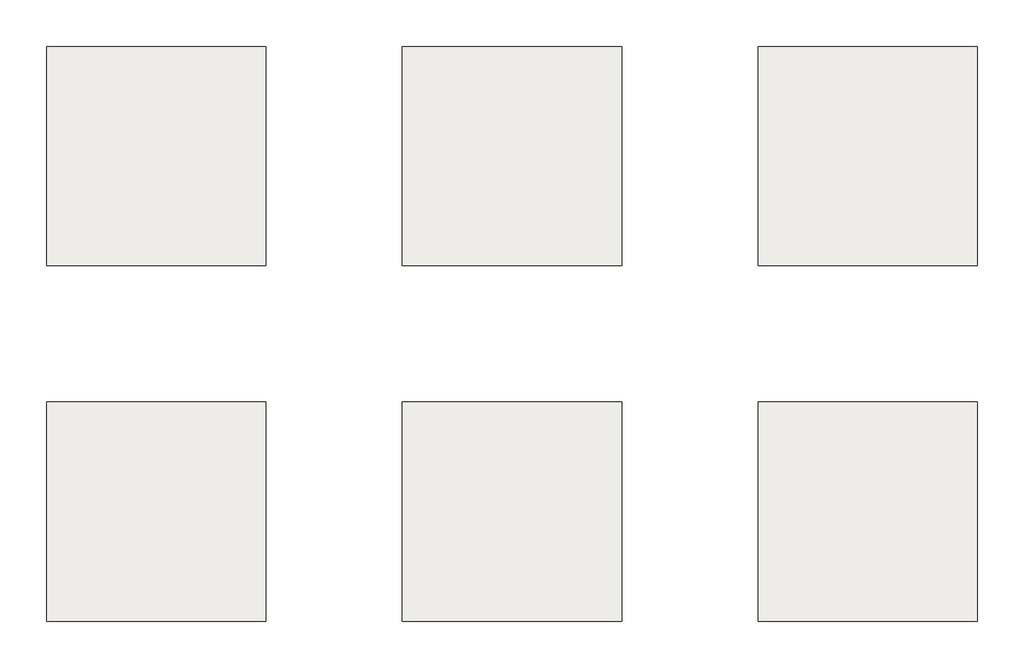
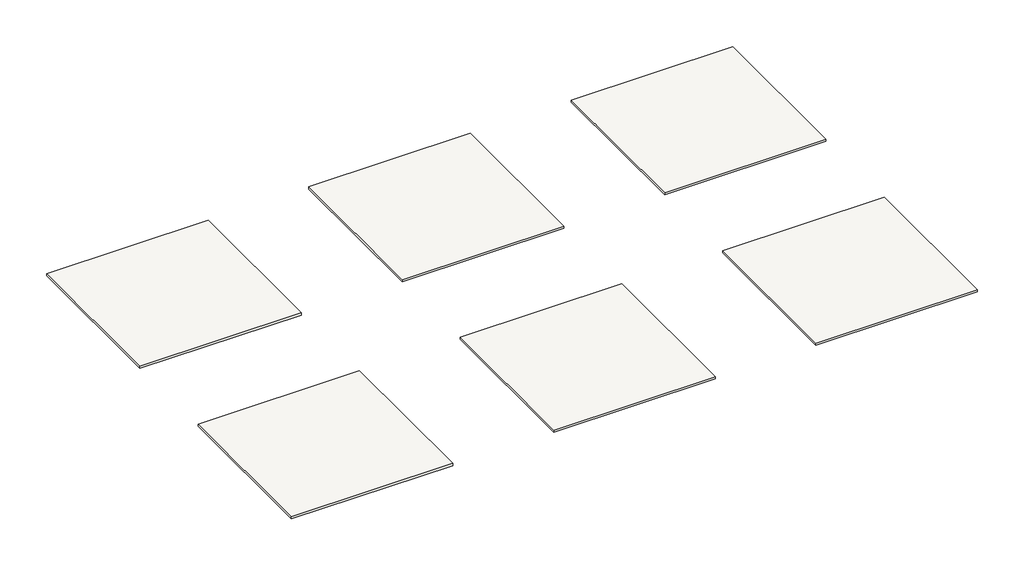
# One storey: 6 slabs.
"""IFC4 building model written with IfcOpenShell, lengths in millimetres."""

import ifcopenshell
import ifcopenshell.guid

model = None  # the IFC model being written
_history = None  # IfcOwnerHistory: only IFC2X3 demands one
_inside = {}  # id of a spatial element -> (the spatial element, [elements in it])
_under = {}  # id of a project, library or spatial element -> (it, [spatial elements below it])
_declared = {}  # id of a project -> (the project, [libraries it declares])
_typed = {}  # id of a type object -> (the type object, [elements of that type])
_made_of = {}  # id of a material, layer set ... -> (it, [elements and type objects made of it])


def new_model(schema):
    """Start an empty IFC model of exactly this schema.

    Asked for "IFC4X3", IfcOpenShell would pick the latest addendum, in which some entities
    have other attributes; the version numbers below select the first issue.
    IFC2X3 requires an IfcOwnerHistory on every rooted entity: one is made here for all.
    """
    global model, _history
    if schema == "IFC4X3":
        model = ifcopenshell.file(schema_version=(4, 3, 0, 0))
    else:
        model = ifcopenshell.file(schema=schema)
    _inside.clear()
    _under.clear()
    _declared.clear()
    _typed.clear()
    _made_of.clear()
    _history = None
    if model.schema == "IFC2X3":
        org = make("IfcOrganization", Name="unknown")
        user = make(
            "IfcPersonAndOrganization",
            ThePerson=make("IfcPerson", FamilyName="unknown"),
            TheOrganization=org,
        )
        app = make(
            "IfcApplication",
            ApplicationDeveloper=org,
            Version="unknown",
            ApplicationFullName="unknown",
            ApplicationIdentifier="unknown",
        )
        _history = make(
            "IfcOwnerHistory",
            OwningUser=user,
            OwningApplication=app,
            ChangeAction="ADDED",
            CreationDate=0,
        )
    return model


def make(cls, **values):
    """One entity of the class cls with the attributes given. An attribute that is None is left unset."""
    return model.create_entity(
        cls, **{name: value for name, value in values.items() if value is not None}
    )


def rooted(cls, **values):
    """An entity with a GlobalId (a new one), such as an element, a storey or a relation."""
    return make(cls, GlobalId=ifcopenshell.guid.new(), OwnerHistory=_history, **values)


def si_unit(unit_type, name, prefix=None):
    """IfcSIUnit, for example si_unit("LENGTHUNIT", "METRE", prefix="MILLI")."""
    return make("IfcSIUnit", UnitType=unit_type, Prefix=prefix, Name=name)


def assignment(units):
    """IfcUnitAssignment: the units of a project."""
    return None if units is None else make("IfcUnitAssignment", Units=units)


def point(xyz):
    """IfcCartesianPoint."""
    return None if xyz is None else make("IfcCartesianPoint", Coordinates=xyz)


def direction(xyz):
    """IfcDirection."""
    return None if xyz is None else make("IfcDirection", DirectionRatios=xyz)


def frame(location, z_axis=None, x_axis=None):
    """IfcAxis2Placement3D, a coordinate frame: its origin and axes. An axis left out is left unset."""
    return make(
        "IfcAxis2Placement3D",
        Location=point(location),
        Axis=direction(z_axis),
        RefDirection=direction(x_axis),
    )


def origin():
    """The frame at (0, 0, 0) with its axes left unset."""
    return frame((0.0, 0.0, 0.0))


def place(relative_to, where):
    """IfcLocalPlacement: puts the frame where relative to a parent placement (None: the world)."""
    return make(
        "IfcLocalPlacement", PlacementRelTo=relative_to, RelativePlacement=where
    )


def context(
    kind, dimensions, precision=None, world=None, true_north=None, identifier=None
):
    """IfcGeometricRepresentationContext, for example the 3D "Model" context."""
    return make(
        "IfcGeometricRepresentationContext",
        ContextIdentifier=identifier,
        ContextType=kind,
        CoordinateSpaceDimension=dimensions,
        Precision=precision,
        WorldCoordinateSystem=world,
        TrueNorth=true_north,
    )


def project(units=None, contexts=None):
    """IfcProject with its units and contexts."""
    return rooted(
        "IfcProject",
        Name="project",
        RepresentationContexts=contexts,
        UnitsInContext=assignment(units),
    )


def spatial(cls, under=None, at=None, **own):
    """A site, building, storey or space (cls), placed at a placement, below another one or the project."""
    s = rooted(cls, ObjectPlacement=at, **own)
    if under is not None:
        _under.setdefault(under.id(), (under, []))[1].append(s)
    return s


def polyline(points):
    """IfcPolyline through the points."""
    return make("IfcPolyline", Points=[point(p) for p in points])


def outline(outer, holes=None, kind="AREA"):
    """IfcArbitraryClosedProfileDef: a profile drawn as a closed curve; with holes, ...WithVoids."""
    if holes is None:
        return make("IfcArbitraryClosedProfileDef", ProfileType=kind, OuterCurve=outer)
    return make(
        "IfcArbitraryProfileDefWithVoids",
        ProfileType=kind,
        OuterCurve=outer,
        InnerCurves=holes,
    )


def extrude(swept, where, along, depth):
    """IfcExtrudedAreaSolid: the profile swept, set in the frame where, extruded along a direction by depth."""
    return make(
        "IfcExtrudedAreaSolid",
        SweptArea=swept,
        Position=where,
        ExtrudedDirection=direction(along),
        Depth=depth,
    )


def shape(context_of_items, identifier, shape_type, items):
    """IfcShapeRepresentation: the items that make up one representation, for example the "Body"."""
    return make(
        "IfcShapeRepresentation",
        ContextOfItems=context_of_items,
        RepresentationIdentifier=identifier,
        RepresentationType=shape_type,
        Items=items,
    )


def made_of(thing, what):
    """Note that an element or type object is made of a material, layer set ...; save() writes the relation."""
    if what is not None:
        _made_of.setdefault(what.id(), (what, []))[1].append(thing)
    return thing


def element(
    cls,
    number,
    at=None,
    inside=None,
    cuts=None,
    type_object=None,
    material=None,
    context=None,
    identifier="Body",
    shape_type=None,
    held_by="IfcProductDefinitionShape",
    body=None,
    shapes=None,
    **own,
):
    """One element of the class cls, such as IfcWall. Its Tag is "e" and its number.

    at: its placement. inside: the storey or other place that contains it. cuts: it is an
    opening in that element (IfcRelVoidsElement). A single representation is given by context,
    identifier, shape_type and body (its items); several are given by shapes. held_by: the class
    of the entity that holds the representations. save() writes the other relations.
    """
    e = rooted(cls, Tag="e%d" % number, ObjectPlacement=at, **own)
    if body is not None:
        shapes = [shape(context, identifier, shape_type, body)]
    if shapes is not None:
        e.Representation = make(held_by, Representations=shapes)
    if inside is not None:
        _inside.setdefault(inside.id(), (inside, []))[1].append(e)
    if cuts is not None:
        rooted(
            "IfcRelVoidsElement", RelatingBuildingElement=cuts, RelatedOpeningElement=e
        )
    if type_object is not None:
        _typed.setdefault(type_object.id(), (type_object, []))[1].append(e)
    return made_of(e, material)


def aggregate(whole, parts):
    """IfcRelAggregates: a whole, such as a stair, and the parts it consists of."""
    return rooted("IfcRelAggregates", RelatingObject=whole, RelatedObjects=parts)


def save(model, path):
    """Write the relations noted so far, then the file.

    IfcRelAggregates (storeys below a building ...), IfcRelContainedInSpatialStructure (elements
    in a storey), IfcRelDefinesByType, IfcRelAssociatesMaterial and IfcRelDeclares: one each for
    every whole, place, type object, material and project.
    """
    for whole, parts in _under.values():
        aggregate(whole, parts)
    for where, things in _inside.values():
        rooted(
            "IfcRelContainedInSpatialStructure",
            RelatedElements=things,
            RelatingStructure=where,
        )
    for kind, things in _typed.values():
        rooted("IfcRelDefinesByType", RelatedObjects=things, RelatingType=kind)
    for what, things in _made_of.values():
        rooted("IfcRelAssociatesMaterial", RelatedObjects=things, RelatingMaterial=what)
    for by, libraries in _declared.values():
        rooted("IfcRelDeclares", RelatingContext=by, RelatedDefinitions=libraries)
    model.write(path)


model = new_model("IFC4")

# Units and contexts
model_context = context("Model", 3, world=origin())
ifc_project = project(units=[si_unit("LENGTHUNIT", "METRE", prefix="MILLI")], contexts=[model_context])

# Site, building, storey
site = spatial("IfcSite", under=ifc_project)
building = spatial("IfcBuilding", under=site)
storey = spatial("IfcBuildingStorey", under=building, Name="LAVERTON FLOOR TILES", Elevation=0.0)

# Slabs
placement = place(None, origin())
element("IfcSlab", 1, ObjectType="VIVES LAVERTON-R ARENA 80x80", at=placement, inside=storey, context=model_context, shape_type="SweptSolid", body=[
    extrude(outline(polyline([(-1397.6740217, -3114.9550563), (-1397.6740217, -3914.9550563), (-2197.6740217, -3914.9550563), (-2197.6740217, -3114.9550563), (-1397.6740217, -3114.9550563)])), frame((0.0, 0.0, -11.0), z_axis=(0.0, 0.0, 1.0), x_axis=(1.0, 0.0, 0.0)), (0.0, 0.0, 1.0), 11.0),
])
element("IfcSlab", 2, ObjectType="VIVES LAVERTON-R NIEVE 80x80", at=placement, inside=storey, context=model_context, shape_type="SweptSolid", body=[
    extrude(outline(polyline([(-97.6740217, -3114.9550563), (-97.6740217, -3914.9550563), (-897.6740217, -3914.9550563), (-897.6740217, -3114.9550563), (-97.6740217, -3114.9550563)])), frame((0.0, 0.0, -11.0), z_axis=(0.0, 0.0, 1.0), x_axis=(1.0, 0.0, 0.0)), (0.0, 0.0, 1.0), 11.0),
])
element("IfcSlab", 3, ObjectType="VIVES LAVERTON-R BEIGE 80x80", at=placement, inside=storey, context=model_context, shape_type="SweptSolid", body=[
    extrude(outline(polyline([(1202.3259783, -3114.9550563), (1202.3259783, -3914.9550563), (402.3259783, -3914.9550563), (402.3259783, -3114.9550563), (1202.3259783, -3114.9550563)])), frame((0.0, 0.0, -11.0), z_axis=(0.0, 0.0, 1.0), x_axis=(1.0, 0.0, 0.0)), (0.0, 0.0, 1.0), 11.0),
])
element("IfcSlab", 4, ObjectType="VIVES LAVERTON-R GRIS 80x80", at=placement, inside=storey, context=model_context, shape_type="SweptSolid", body=[
    extrude(outline(polyline([(-1397.6740217, -4414.9550563), (-1397.6740217, -5214.9550563), (-2197.6740217, -5214.9550563), (-2197.6740217, -4414.9550563), (-1397.6740217, -4414.9550563)])), frame((0.0, 0.0, -11.0), z_axis=(0.0, 0.0, 1.0), x_axis=(1.0, 0.0, 0.0)), (0.0, 0.0, 1.0), 11.0),
])
element("IfcSlab", 5, ObjectType="VIVES LAVERTON-R NATURAL 80x80", at=placement, inside=storey, context=model_context, shape_type="SweptSolid", body=[
    extrude(outline(polyline([(-97.6740217, -4414.9550563), (-97.6740217, -5214.9550563), (-897.6740217, -5214.9550563), (-897.6740217, -4414.9550563), (-97.6740217, -4414.9550563)])), frame((0.0, 0.0, -11.0), z_axis=(0.0, 0.0, 1.0), x_axis=(1.0, 0.0, 0.0)), (0.0, 0.0, 1.0), 11.0),
])
element("IfcSlab", 6, ObjectType="VIVES LAVERTON-R GRAFITO 80x80", at=placement, inside=storey, context=model_context, shape_type="SweptSolid", body=[
    extrude(outline(polyline([(1202.3259783, -4414.9550563), (1202.3259783, -5214.9550563), (402.3259783, -5214.9550563), (402.3259783, -4414.9550563), (1202.3259783, -4414.9550563)])), frame((0.0, 0.0, -11.0), z_axis=(0.0, 0.0, 1.0), x_axis=(1.0, 0.0, 0.0)), (0.0, 0.0, 1.0), 11.0),
])

save(model, "model.ifc")
